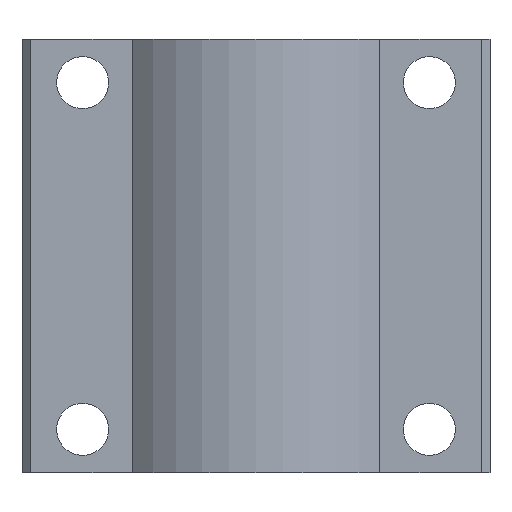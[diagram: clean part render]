
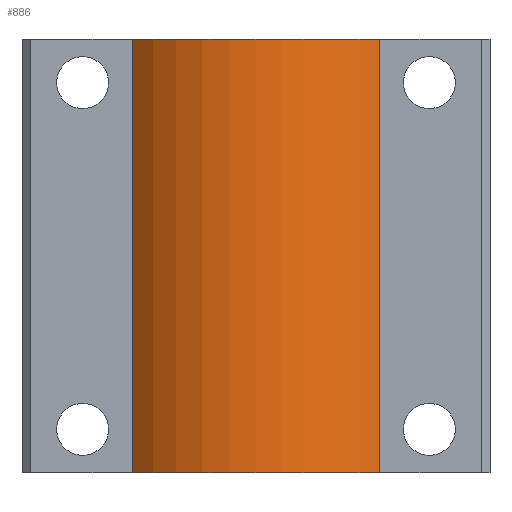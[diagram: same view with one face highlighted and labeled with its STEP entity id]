
A CAD part, front view. The second image highlights one B-rep face of the part: STEP entity #886.
In plain terms, the highlighted cylindrical face has radius 20 mm (diameter 40 mm), a partial arc.
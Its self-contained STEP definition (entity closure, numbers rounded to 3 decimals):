
#689=CARTESIAN_POINT('',(13.574,-9.802,-2.));
#690=VERTEX_POINT('',#689);
#697=CARTESIAN_POINT('',(-14.992,-9.802,-2.));
#698=VERTEX_POINT('',#697);
#699=CARTESIAN_POINT('',(-0.709,4.198,-2.));
#700=DIRECTION('',(0.0,0.0,1.));
#701=DIRECTION('',(0.714,0.7,0.0));
#702=AXIS2_PLACEMENT_3D('',#699,#700,#701);
#703=CIRCLE('',#702,20.0);
#704=EDGE_CURVE('',#698,#690,#703,.T.);
#835=CARTESIAN_POINT('',(13.574,-9.802,48.));
#836=VERTEX_POINT('',#835);
#843=CARTESIAN_POINT('',(13.574,-9.802,48.));
#844=DIRECTION('',(0.0,0.0,-1.0));
#845=VECTOR('',#844,50.);
#846=LINE('',#843,#845);
#847=EDGE_CURVE('',#836,#690,#846,.T.);
#862=CARTESIAN_POINT('',(-0.709,4.198,23.));
#863=DIRECTION('',(0.0,0.0,1.0));
#864=DIRECTION('',(0.714,0.7,0.0));
#865=AXIS2_PLACEMENT_3D('',#862,#863,#864);
#866=CYLINDRICAL_SURFACE('',#865,20.);
#867=CARTESIAN_POINT('',(-14.992,-9.802,48.));
#868=VERTEX_POINT('',#867);
#869=CARTESIAN_POINT('',(-0.709,4.198,48.));
#870=DIRECTION('',(0.0,0.0,-1.));
#871=DIRECTION('',(0.714,0.7,0.0));
#872=AXIS2_PLACEMENT_3D('',#869,#870,#871);
#873=CIRCLE('',#872,20.0);
#874=EDGE_CURVE('',#836,#868,#873,.T.);
#875=ORIENTED_EDGE('',*,*,#874,.T.);
#876=CARTESIAN_POINT('',(-14.992,-9.802,48.));
#877=DIRECTION('',(0.0,0.0,-1.0));
#878=VECTOR('',#877,50.);
#879=LINE('',#876,#878);
#880=EDGE_CURVE('',#868,#698,#879,.T.);
#881=ORIENTED_EDGE('',*,*,#880,.T.);
#882=ORIENTED_EDGE('',*,*,#704,.T.);
#883=ORIENTED_EDGE('',*,*,#847,.F.);
#884=EDGE_LOOP('',(#875,#881,#882,#883));
#885=FACE_OUTER_BOUND('',#884,.T.);
#886=ADVANCED_FACE('',(#885),#866,.T.);
